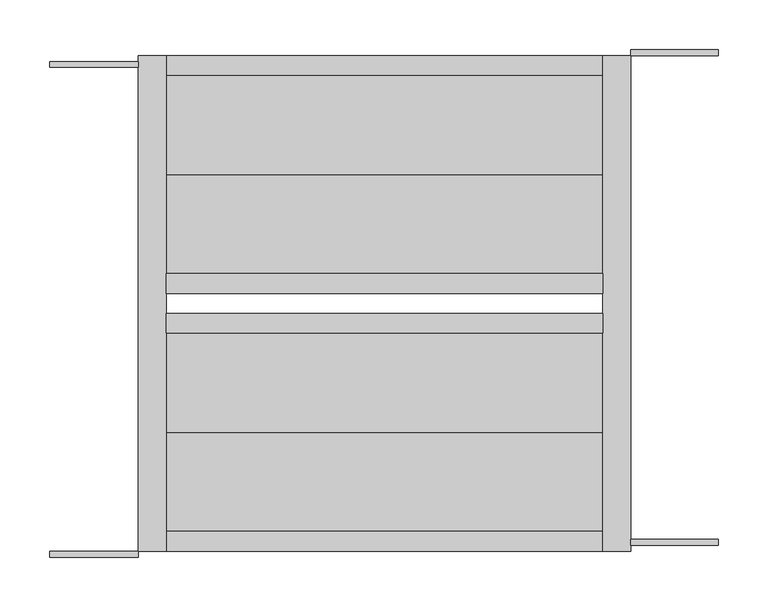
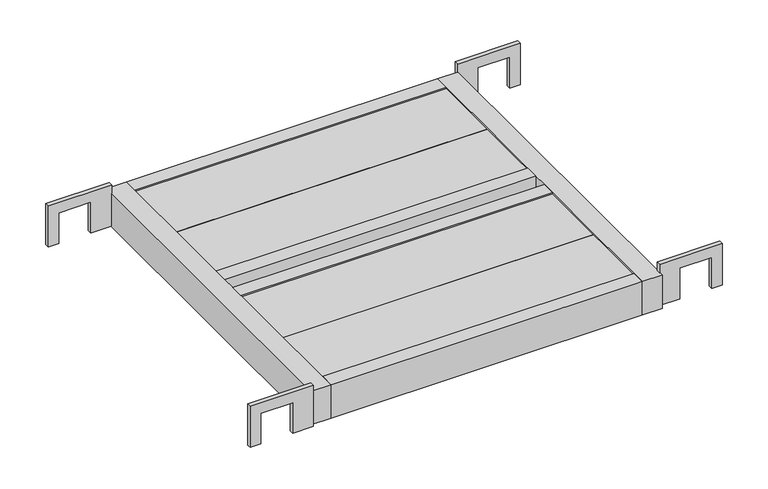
"""IFC4 building model written with IfcOpenShell, lengths in millimetres: proxy geometry, AKK布板HF-506_軽 : 鋼製布板 HF-506_軽."""

from ifc_helpers import new_model, si_unit, frame, origin, place, context, project, spatial, polyline, outline, extrude, source, transform, mapped, element, save


def generic_models_ee78bb28(model_context):
    return source(origin(), model_context, "Body", "SweptSolid", [
        extrude(outline(polyline([(37.5, -32.5), (-24.1, -32.5), (-24.1, -17.5), (22.0, -17.5), (22.0, 27.5), (-24.1, 27.5), (-24.1, 57.0), (37.5, 57.0), (37.5, -32.5)])), frame((0.0, 0.0, 0.0), z_axis=(0.0, 1.0, 0.0), x_axis=(0.0, 0.0, 1.0)), (0.0, 0.0, 1.0), 6.0),
        extrude(outline(polyline([(37.5, 553.0), (-24.1, 553.0), (-24.1, 581.5), (22.0, 581.5), (22.0, 626.5), (-24.1, 626.5), (-24.1, 641.5), (37.5, 641.5), (37.5, 553.0)])), frame((0.0, 12.0, 0.0), z_axis=(0.0, 1.0, 0.0), x_axis=(0.0, 0.0, 1.0)), (0.0, 0.0, 1.0), 6.0),
        extrude(outline(polyline([(37.5, 553.0), (-24.1, 553.0), (-24.1, 581.5), (22.0, 581.5), (22.0, 626.5), (-24.1, 626.5), (-24.1, 641.5), (37.5, 641.5), (37.5, 553.0)])), frame((0.0, 506.0, 0.0), z_axis=(0.0, 1.0, 0.0), x_axis=(0.0, 0.0, 1.0)), (0.0, 0.0, 1.0), 6.0),
        extrude(outline(polyline([(37.5, -32.5), (-24.1, -32.5), (-24.1, -17.5), (22.0, -17.5), (22.0, 27.5), (-24.1, 27.5), (-24.1, 57.0), (37.5, 57.0), (37.5, -32.5)])), frame((0.0, 494.0, 0.0), z_axis=(0.0, 1.0, 0.0), x_axis=(0.0, 0.0, 1.0)), (0.0, 0.0, 1.0), 6.0),
        extrude(outline(polyline([(525.0, 486.0), (525.0, 386.0), (85.0, 386.0), (85.0, 486.0), (525.0, 486.0)])), frame((0.0, 0.0, 17.5), z_axis=(0.0, 0.0, 1.0), x_axis=(1.0, 0.0, 0.0)), (0.0, 0.0, 1.0), 5.0),
        extrude(outline(polyline([(525.0, 386.0), (525.0, 286.0), (85.0, 286.0), (85.0, 386.0), (525.0, 386.0)])), frame((0.0, 0.0, 17.5), z_axis=(0.0, 0.0, 1.0), x_axis=(1.0, 0.0, 0.0)), (0.0, 0.0, 1.0), 5.0),
        extrude(outline(polyline([(525.0, 226.0), (525.0, 126.0), (85.0, 126.0), (85.0, 226.0), (525.0, 226.0)])), frame((0.0, 0.0, 17.5), z_axis=(0.0, 0.0, 1.0), x_axis=(1.0, 0.0, 0.0)), (0.0, 0.0, 1.0), 5.0),
        extrude(outline(polyline([(525.0, 126.0), (525.0, 26.0), (85.0, 26.0), (85.0, 126.0), (525.0, 126.0)])), frame((0.0, 0.0, 17.5), z_axis=(0.0, 0.0, 1.0), x_axis=(1.0, 0.0, 0.0)), (0.0, 0.0, 1.0), 5.0),
        extrude(outline(polyline([(525.0, 286.0), (525.0, 266.0), (85.0, 266.0), (85.0, 286.0), (525.0, 286.0)])), frame((0.0, 0.0, -25.0), z_axis=(0.0, 0.0, 1.0), x_axis=(1.0, 0.0, 0.0)), (0.0, 0.0, 1.0), 50.0),
        extrude(outline(polyline([(525.0, 246.0), (525.0, 226.0), (85.0, 226.0), (85.0, 246.0), (525.0, 246.0)])), frame((0.0, 0.0, -25.0), z_axis=(0.0, 0.0, 1.0), x_axis=(1.0, 0.0, 0.0)), (0.0, 0.0, 1.0), 50.0),
        extrude(outline(polyline([(525.0, 6.0), (525.0, 506.0), (553.0, 506.0), (553.0, 6.0), (525.0, 6.0)])), frame((0.0, 0.0, -25.0), z_axis=(0.0, 0.0, 1.0), x_axis=(1.0, 0.0, 0.0)), (0.0, 0.0, 1.0), 50.0),
        extrude(outline(polyline([(57.0, 6.0), (57.0, 506.0), (85.0, 506.0), (85.0, 6.0), (57.0, 6.0)])), frame((0.0, 0.0, -25.0), z_axis=(0.0, 0.0, 1.0), x_axis=(1.0, 0.0, 0.0)), (0.0, 0.0, 1.0), 50.0),
        extrude(outline(polyline([(525.0, 506.0), (525.0, 486.0), (85.0, 486.0), (85.0, 506.0), (525.0, 506.0)])), frame((0.0, 0.0, -25.0), z_axis=(0.0, 0.0, 1.0), x_axis=(1.0, 0.0, 0.0)), (0.0, 0.0, 1.0), 50.0),
        extrude(outline(polyline([(525.0, 26.0), (525.0, 6.0), (85.0, 6.0), (85.0, 26.0), (525.0, 26.0)])), frame((0.0, 0.0, -25.0), z_axis=(0.0, 0.0, 1.0), x_axis=(1.0, 0.0, 0.0)), (0.0, 0.0, 1.0), 50.0),
    ])


if __name__ == "__main__":
    model = new_model("IFC4")
    model_context = context("Model", 3, world=origin())
    ifc_project = project(units=[si_unit("LENGTHUNIT", "METRE", prefix="MILLI")], contexts=[model_context])
    site = spatial("IfcSite", under=ifc_project)
    building = spatial("IfcBuilding", under=site)
    placement = place(None, origin())
    generic_models_shape = generic_models_ee78bb28(model_context)
    element("IfcBuildingElementProxy", 1, Name="AKK布板HF-506_軽 : 鋼製布板 HF-506_軽", ObjectType="AKK布板HF-506_軽 : 鋼製布板 HF-506_軽", at=placement, inside=building, context=model_context, shape_type="MappedRepresentation", body=[
        mapped(generic_models_shape, transform((0.0, 0.0, 0.0), x_axis=(1.0, 0.0, 0.0), y_axis=(0.0, 1.0, 0.0), z_axis=(0.0, 0.0, 1.0))),
    ])
    save(model, "model.ifc")
